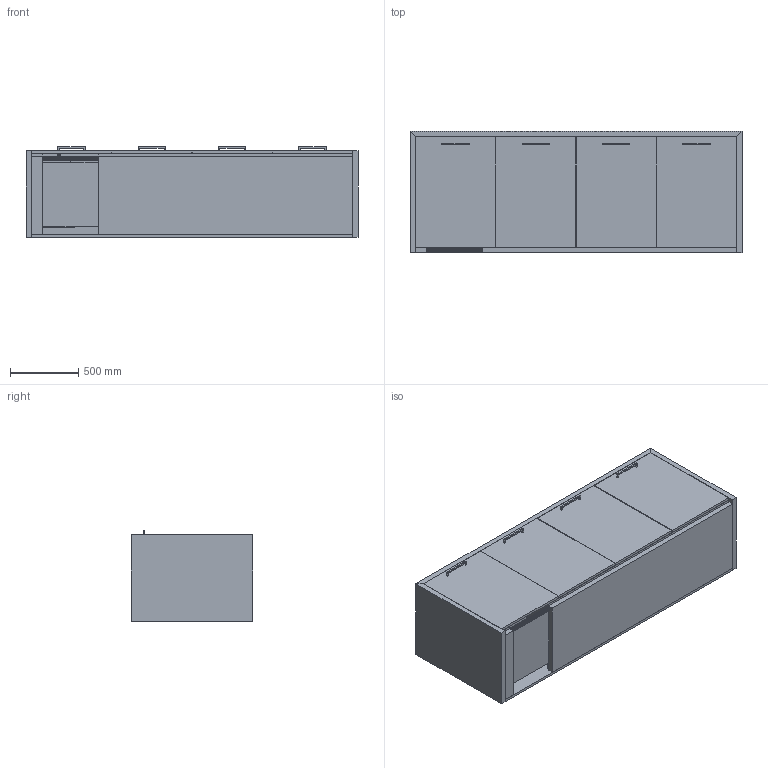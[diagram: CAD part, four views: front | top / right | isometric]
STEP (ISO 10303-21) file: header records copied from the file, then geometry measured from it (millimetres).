
FILE_DESCRIPTION(/* description */ ('','CAx-IF Rec.Pracs.---Representation and Presentation of Product Manufacturing Information (PMI)---4.0---2014-10-13'),/* implementation_level */ '2;1');
FILE_NAME(/* name */ 'CREDENZA STORAGE_FOUNDATION 1.stp',/* time_stamp */ '2024-12-07T18:18:10-05:00',/* author */ ('mbowman'),/* organization */ (''),/* preprocessor_version */ 'ST-DEVELOPER v19.2',/* originating_system */ 'Autodesk Inventor 2023',/* authorisation */ '');
FILE_SCHEMA (('AP242_MANAGED_MODEL_BASED_3D_ENGINEERING_MIM_LF { 1 0 10303 442 1 1 4 }'));
Length unit declared in the file: inch
Products named in the file (33): FOUNDATION^STANDARD CREDENZA_35x96 4 DOORS-RAW ASSEMBLY; FOUNDATION^STANDARD CREDENZA_WEBSITE DETAIL-LEFT END; FOUNDATION^STANDARD CREDENZA_WEBSITE DETAIL-TOP; FOUNDATION^STANDARD CREDENZA_WEBSITE DETAIL-RIGHT END; FOUNDATION^STANDARD CREDENZA_WEBSITE DETAIL-BACK; FOUNDATION^STANDARD CREDENZA_WEBSITE DETAIL-BASE; FOUNDATION^STANDARD CREDENZA_WEBSITE DETAIL-BOTTOM; FOUNDATION^STANDARD CREDENZA_WEBSITE DETAIL-LEFT PARTITION; FOUNDATION^STANDARD CREDENZA_WEBSITE DETAIL-CENTER PARTITION; FOUNDATION^STANDARD CREDENZA_WEBSITE DETAIL-RIGHT PARTITION; FOUNDATION^STANDARD CREDENZA_WEBSITE DETAIL-LEFT END DOOR; FOUNDATION^STANDARD CREDENZA_WEBSITE DETAIL-LEFT CTR DOOR; FOUNDATION^STANDARD CREDENZA_WEBSITE DETAIL-RIGHT CTR DOOR; FOUNDATION^STANDARD CREDENZA_WEBSITE DETAIL-RIGHT END DOOR; FOUNDATION^STANDARD CREDENZA_WEBSITE DETAIL-VENT GRILL; SCHWINN-BAR PULL 2334.192; CRD065N1C000__; 007-11 ASSIEME BAULETTO; 007-11 SCHIENA DR65NF; 007-11 FIANCO; 007-11 CORNICE CR65; 007-11 ASSIEME PORTA DRAWER PANNELLABILE_CRD065N-C; 007-11  profilo guarnizione CR65; 007-11  TAPPO 20_5 FORO SCHIUMATA; 007-11 PORTA DRAWER PANNELLABILE_CR65 SP 0.4mm; 007-11 RINFORZO SCROCCHETTO 134052003; 007-11 flangia fissaggio drawer porta customizzabile 49-55-65; Tapping screw DIN 7049-ST3.5x13-C-H-N_Tapping screw DIN 7049-ST3.5x13
-C-H-N; piedino-D25-h10; INGOMBRO UNITA DC; TOP DRAWER (VISUAL ONLY); MID DRAWER (VISUAL ONLY); BOTTOM DRAWER (VISUAL ONLY)
Assembly tree (46 placements, depth 4):
  FOUNDATION^STANDARD CREDENZA_35x96 4 DOORS-RAW ASSEMBLY
    FOUNDATION^STANDARD CREDENZA_WEBSITE DETAIL-LEFT END
    FOUNDATION^STANDARD CREDENZA_WEBSITE DETAIL-TOP
    FOUNDATION^STANDARD CREDENZA_WEBSITE DETAIL-RIGHT END
    FOUNDATION^STANDARD CREDENZA_WEBSITE DETAIL-BACK
    FOUNDATION^STANDARD CREDENZA_WEBSITE DETAIL-BASE
    FOUNDATION^STANDARD CREDENZA_WEBSITE DETAIL-BOTTOM
    FOUNDATION^STANDARD CREDENZA_WEBSITE DETAIL-LEFT PARTITION
    FOUNDATION^STANDARD CREDENZA_WEBSITE DETAIL-CENTER PARTITION
    FOUNDATION^STANDARD CREDENZA_WEBSITE DETAIL-RIGHT PARTITION
    FOUNDATION^STANDARD CREDENZA_WEBSITE DETAIL-LEFT END DOOR
    FOUNDATION^STANDARD CREDENZA_WEBSITE DETAIL-LEFT CTR DOOR
    FOUNDATION^STANDARD CREDENZA_WEBSITE DETAIL-RIGHT CTR DOOR
    FOUNDATION^STANDARD CREDENZA_WEBSITE DETAIL-RIGHT END DOOR
    FOUNDATION^STANDARD CREDENZA_WEBSITE DETAIL-VENT GRILL
    SCHWINN-BAR PULL 2334.192  x4
    CRD065N1C000__
      007-11 ASSIEME BAULETTO
        007-11 FIANCO  x2
        007-11 SCHIENA DR65NF
        007-11 CORNICE CR65
      007-11 ASSIEME PORTA DRAWER PANNELLABILE_CRD065N-C
        007-11  profilo guarnizione CR65
        007-11  TAPPO 20_5 FORO SCHIUMATA
        007-11 PORTA DRAWER PANNELLABILE_CR65 SP 0.4mm
        007-11 RINFORZO SCROCCHETTO 134052003  x2
      007-11 flangia fissaggio drawer porta customizzabile 49-55-65  x2
      Tapping screw DIN 7049-ST3.5x13-C-H-N_Tapping screw DIN 7049-ST3.5x13
-C-H-N  x6
      piedino-D25-h10  x4
      INGOMBRO UNITA DC
      TOP DRAWER (VISUAL ONLY)
      MID DRAWER (VISUAL ONLY)
      BOTTOM DRAWER (VISUAL ONLY)
Bounding box: 2438.4 x 889 x 665 mm (x, y, z)
Volume: 278606550.5 mm3; surface area: 26933641.7 mm2
Topology: 74 solids, 79 shells, 1676 faces, 4255 edges, 2748 vertices
Faces by surface type: plane 897, cylinder 624, torus 102, sphere 21, cone 16, bspline 16
Full cylindrical faces by diameter (mm): 2.5 x38, 3.5 x10, 3.75 x1, 4 x8, 4.134 x6, 4.25 x8, 4.762 x98, 5.9 x6, 6.35 x208, 7 x6, 8 x4, 10 x4, 19.5 x1, 20 x6, 20.5 x1, 24.5 x1, 30 x3
Entity records: 50388 total; most frequent: CARTESIAN_POINT 9855, DIRECTION 8584, ORIENTED_EDGE 6996, EDGE_CURVE 3498, AXIS2_PLACEMENT_3D 3271, VERTEX_POINT 2264, LINE 2042, VECTOR 2042
